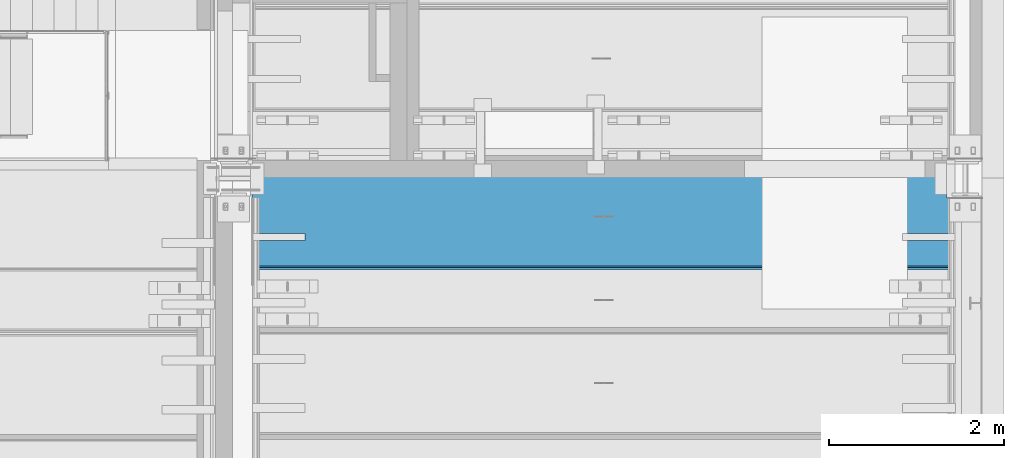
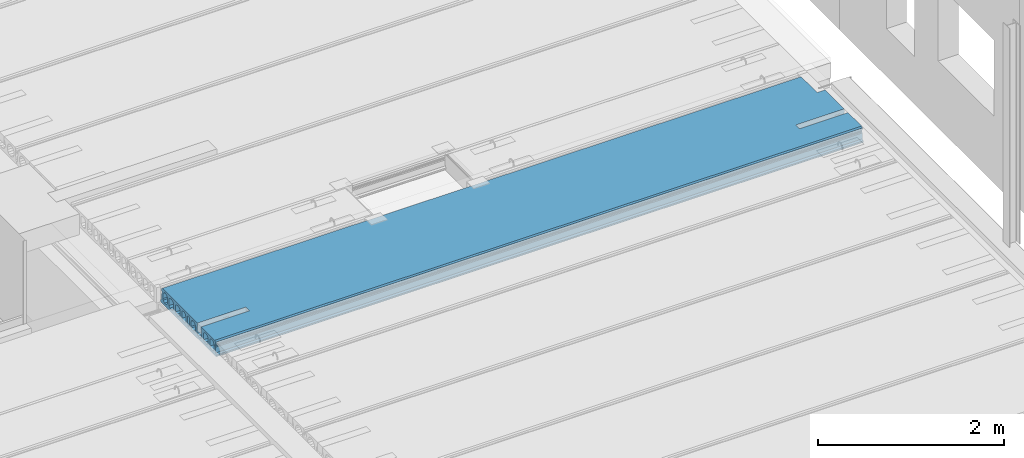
# One storey, part 97 of 230: 1 beam.
"""IFC4X3_ADD2 building model written with IfcOpenShell, lengths in millimetres."""

from ifc_helpers import new_model, si_unit, direction, origin_with_axes, place, context, subcontext, project, spatial, polygons, element, save


model = new_model("IFC4X3_ADD2")

# Units and contexts
model_context = context("Model", 3, precision=1e-05, world=origin_with_axes(), true_north=direction((0.0, 1.0)))
body_context = subcontext(model_context, "Body", "Model", "MODEL_VIEW")
ifc_project = project(units=[si_unit("LENGTHUNIT", "METRE", prefix="MILLI"), si_unit("AREAUNIT", "SQUARE_METRE"), si_unit("VOLUMEUNIT", "CUBIC_METRE"), si_unit("PLANEANGLEUNIT", "RADIAN"), si_unit("TIMEUNIT", "SECOND"), si_unit("MASSUNIT", "GRAM")], contexts=[model_context])

# Site, building, storey
site_placement = place(None, origin_with_axes())
site = spatial("IfcSite", under=ifc_project, at=site_placement, Name="Site", CompositionType="ELEMENT")
building_placement = place(site_placement, origin_with_axes())
building = spatial("IfcBuilding", under=site, at=building_placement, Name="IFC Building Story")
storey_placement = place(building_placement, origin_with_axes())
storey = spatial("IfcBuildingStorey", under=building, at=storey_placement, Name="ETAGE 00 (0)", Elevation=0.0)

# Beam
beam_placement = place(storey_placement, origin_with_axes())
element("IfcBeam", 1, at=beam_placement, inside=storey, Name="HOLLOWCORE SLAB", ObjectType="EB_SPN200", context=body_context, shape_type="Tessellation", body=[
    polygons([(40181.189, 349.0, 3999.9999909), (40181.189, -829.0, 3999.9999909), (40181.189, -840.0, 4012.9999909), (40181.189, -840.0, 4029.9999909), (40181.189, -820.0, 4044.9999909), (40181.189, -818.5499877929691, 4119.9999909), (40181.189, -811.0173785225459, 4128.676139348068), (40181.189, -808.160069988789, 4139.805000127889), (40181.189, -810.581363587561, 4151.036789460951), (40181.189, -817.7700195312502, 4159.9999909), (40181.189, -817.2887038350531, 4185.002769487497), (40181.189, -802.0, 4199.9999909), (40181.189, -510.0, 4199.9999909), (40181.189, -510.0, 4159.431439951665), (40181.189, -523.0, 4148.669989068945), (40181.189, -523.0, 4059.329992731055), (40181.189, -500.471955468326, 4040.681189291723), (40181.189, -471.999999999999, 4033.999990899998), (40181.189, -443.528044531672, 4040.681189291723), (40181.189, -421.0, 4059.329992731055), (40181.189, -421.0, 4148.669989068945), (40181.189, -430.0, 4156.120224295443), (40181.189, -430.0, 4199.9999909), (40181.189, 322.0, 4199.9999909), (40181.189, 337.28870383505, 4185.002769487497), (40181.189, 337.7700195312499, 4159.9999909), (40181.189, 330.58136358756, 4151.036789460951), (40181.189, 328.16006998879, 4139.805000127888), (40181.189, 331.01737852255, 4128.676139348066), (40181.189, 338.5499877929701, 4119.9999909), (40181.189, 340.0, 4044.9999909), (40181.189, 360.0, 4029.9999909), (40181.189, 360.0, 4012.9999909), (40181.189, 305.77841495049, 4132.648626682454), (40181.189, 305.26233230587, 4134.906764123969), (40181.189, 304.48861684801, 4137.090085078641), (40181.189, 303.4676470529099, 4139.169302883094), (40181.189, 290.0, 4162.9999909), (40181.189, 275.9999999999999, 4172.9999909), (40181.189, 258.96883007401, 4173.755090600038), (40181.189, 242.41792616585, 4169.66871024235), (40181.189, 227.69528512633, 4161.073667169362), (40181.189, 215.9999999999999, 4148.669989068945), (40181.189, 215.9999999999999, 4059.329992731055), (40181.189, 227.69528512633, 4046.926314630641), (40181.189, 242.41792616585, 4038.331271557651), (40181.189, 258.96883007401, 4034.244891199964), (40181.189, 275.9999999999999, 4034.9999909), (40181.189, 287.0, 4040.9999909), (40181.189, 303.0, 4056.9999909), (40181.189, 309.0, 4071.9999909), (40181.189, 306.0299421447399, 4130.345962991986), (40181.189, 130.0, 4173.999990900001), (40181.189, 101.5280445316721, 4167.318792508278), (40181.189, 79.0, 4148.669989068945), (40181.189, 79.0, 4059.329992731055), (40181.189, 101.5280445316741, 4040.681189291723), (40181.189, 130.0, 4033.999990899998), (40181.189, 158.4719554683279, 4040.681189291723), (40181.189, 180.9999999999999, 4059.329992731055), (40181.189, 180.9999999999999, 4148.669989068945), (40181.189, 158.4719554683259, 4167.318792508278), (40181.189, -8.0, 4173.999990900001), (40181.189, -36.47195546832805, 4167.318792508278), (40181.189, -59.0, 4148.669989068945), (40181.189, -59.0, 4059.329992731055), (40181.189, -36.47195546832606, 4040.681189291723), (40181.189, -7.999999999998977, 4033.999990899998), (40181.189, 20.47195546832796, 4040.681189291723), (40181.189, 42.99999999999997, 4059.329992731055), (40181.189, 42.99999999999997, 4148.669989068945), (40181.189, 20.47195546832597, 4167.318792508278), (40181.189, -121.4179261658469, 4169.66871024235), (40181.189, -137.9688300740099, 4173.755090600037), (40181.189, -155.0, 4172.9999909), (40181.189, -169.0, 4162.9999909), (40181.189, -182.467662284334, 4139.169310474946), (40181.189, -183.4886352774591, 4137.090088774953), (40181.189, -184.262352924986, 4134.906763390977), (40181.189, -184.7784366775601, 4132.648621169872), (40181.189, -185.029963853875, 4130.345952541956), (40181.189, -188.0, 4071.9999909), (40181.189, -182.0, 4056.9999909), (40181.189, -165.9999999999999, 4040.9999909), (40181.189, -155.0, 4034.9999909), (40181.189, -137.9688300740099, 4034.244891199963), (40181.189, -121.4179261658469, 4038.33127155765), (40181.189, -106.6952851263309, 4046.926314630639), (40181.189, -95.0, 4059.329992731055), (40181.189, -95.0, 4148.669989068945), (40181.189, -106.6952851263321, 4161.073667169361), (40181.189, -223.524554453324, 4166.831645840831), (40181.189, -231.00042354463, 4172.130025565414), (40181.189, -240.029365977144, 4173.9999909), (40181.189, -248.99957645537, 4172.130025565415), (40181.189, -256.475445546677, 4166.831645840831), (40181.189, -261.211573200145, 4158.987505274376), (40181.189, -262.418971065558, 4149.904354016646), (40181.189, -254.918278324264, 4047.854121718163), (40181.189, -253.484939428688, 4042.477896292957), (40181.189, -250.184922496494, 4037.998147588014), (40181.189, -245.475326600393, 4035.035384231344), (40181.189, -239.99150254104, 4033.9999909), (40181.189, -234.524673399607, 4035.035384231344), (40181.189, -229.815077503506, 4037.998147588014), (40181.189, -226.515060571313, 4042.477896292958), (40181.189, -225.081721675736, 4047.854121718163), (40181.189, -217.581028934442, 4149.904354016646), (40181.189, -218.788426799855, 4158.987505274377), (40181.189, -295.22156332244, 4132.648621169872), (40181.189, -295.737647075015, 4134.906763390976), (40181.189, -296.511364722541, 4137.090088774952), (40181.189, -297.532337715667, 4139.169310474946), (40181.189, -311.0, 4162.9999909), (40181.189, -325.0, 4172.9999909), (40181.189, -342.03116992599, 4173.755090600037), (40181.189, -358.582073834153, 4169.66871024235), (40181.189, -373.304714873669, 4161.073667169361), (40181.189, -385.0, 4148.669989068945), (40181.189, -385.0, 4059.329992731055), (40181.189, -373.304714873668, 4046.926314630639), (40181.189, -358.582073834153, 4038.331271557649), (40181.189, -342.03116992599, 4034.244891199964), (40181.189, -325.0, 4034.9999909), (40181.189, -314.0, 4040.9999909), (40181.189, -298.0, 4056.9999909), (40181.189, -292.0, 4071.999990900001), (40181.189, -294.970036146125, 4130.345952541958), (40181.189, -610.0, 4173.999990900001), (40181.189, -638.471955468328, 4167.318792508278), (40181.189, -661.0, 4148.669989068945), (40181.189, -661.0, 4059.329992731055), (40181.189, -638.471955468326, 4040.681189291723), (40181.189, -610.0, 4033.999990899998), (40181.189, -581.528044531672, 4040.681189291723), (40181.189, -559.0, 4059.329992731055), (40181.189, -559.0, 4148.669989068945), (40181.189, -581.528044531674, 4167.318792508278), (40181.189, -722.417926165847, 4169.668710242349), (40181.189, -738.96883007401, 4173.755090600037), (40181.189, -756.0, 4172.9999909), (40181.189, -770.0, 4162.9999909), (40181.189, -783.4676470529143, 4139.169302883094), (40181.189, -784.4886168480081, 4137.090085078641), (40181.189, -785.262332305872, 4134.906764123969), (40181.189, -785.7784149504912, 4132.648626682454), (40181.189, -786.029942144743, 4130.345962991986), (40181.189, -789.0, 4071.9999909), (40181.189, -783.0, 4056.9999909), (40181.189, -767.0, 4040.9999909), (40181.189, -756.0, 4034.9999909), (40181.189, -738.96883007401, 4034.244891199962), (40181.189, -722.417926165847, 4038.331271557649), (40181.189, -707.695285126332, 4046.926314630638), (40181.189, -696.0, 4059.329992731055), (40181.189, -696.0, 4148.669989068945), (40181.189, -707.695285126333, 4161.073667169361), (48195.68900000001, -430.0, 4199.9999909), (48195.68900000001, -430.0, 4156.120224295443), (48195.68900000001, -421.0, 4148.669989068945), (48195.68900000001, -421.0, 4059.329992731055), (48195.68900000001, -443.528044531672, 4040.681189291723), (48195.68900000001, -471.999999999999, 4033.999990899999), (48195.68900000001, -500.471955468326, 4040.681189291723), (48195.68900000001, -523.0, 4059.329992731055), (48195.68900000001, -523.0, 4148.669989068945), (48195.68900000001, -510.0, 4159.431439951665), (48195.68900000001, -510.0, 4199.9999909), (48195.68900000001, -802.0, 4199.9999909), (48195.68900000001, -817.2887038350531, 4185.002769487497), (48195.68900000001, -817.7700195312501, 4159.9999909), (48195.68900000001, -810.581363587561, 4151.036789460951), (48195.68900000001, -808.160069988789, 4139.805000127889), (48195.68900000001, -811.0173785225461, 4128.676139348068), (48195.68900000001, -818.5499877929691, 4119.9999909), (48195.68900000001, -820.0, 4044.9999909), (48195.68900000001, -840.0, 4029.9999909), (48195.68900000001, -840.0, 4012.9999909), (48195.68900000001, -829.0, 3999.9999909), (48195.68900000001, -20.0, 3999.9999909), (48195.68900000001, -20.0, 4036.815897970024), (48195.68900000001, -36.47195546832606, 4040.681189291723), (48195.68900000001, -59.0, 4059.329992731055), (48195.68900000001, -59.0, 4148.669989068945), (48195.68900000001, -36.47195546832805, 4167.318792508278), (48195.68900000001, -20.0, 4171.184083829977), (48195.68900000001, -20.0, 4199.9999909), (48195.68900000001, -121.4179261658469, 4169.66871024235), (48195.68900000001, -106.6952851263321, 4161.073667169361), (48195.68900000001, -95.0, 4148.669989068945), (48195.68900000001, -95.0, 4059.329992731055), (48195.68900000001, -106.6952851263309, 4046.926314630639), (48195.68900000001, -121.4179261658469, 4038.33127155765), (48195.68900000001, -137.9688300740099, 4034.244891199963), (48195.68900000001, -155.0, 4034.9999909), (48195.68900000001, -165.9999999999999, 4040.9999909), (48195.68900000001, -182.0, 4056.9999909), (48195.68900000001, -188.0, 4071.9999909), (48195.68900000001, -185.029963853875, 4130.345952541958), (48195.68900000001, -184.7784366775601, 4132.648621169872), (48195.68900000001, -184.262352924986, 4134.906763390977), (48195.68900000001, -183.4886352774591, 4137.090088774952), (48195.68900000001, -182.467662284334, 4139.169310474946), (48195.68900000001, -169.0, 4162.9999909), (48195.68900000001, -155.0, 4172.9999909), (48195.68900000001, -137.9688300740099, 4173.755090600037), (48195.68900000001, -223.524554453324, 4166.831645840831), (48195.68900000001, -218.788426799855, 4158.987505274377), (48195.68900000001, -217.581028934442, 4149.904354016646), (48195.68900000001, -225.081721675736, 4047.854121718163), (48195.68900000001, -226.515060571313, 4042.477896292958), (48195.68900000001, -229.815077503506, 4037.998147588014), (48195.68900000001, -234.524673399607, 4035.035384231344), (48195.68900000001, -239.99150254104, 4033.9999909), (48195.68900000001, -245.475326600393, 4035.035384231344), (48195.68900000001, -250.184922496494, 4037.998147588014), (48195.68900000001, -253.484939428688, 4042.477896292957), (48195.68900000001, -254.918278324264, 4047.854121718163), (48195.68900000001, -262.418971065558, 4149.904354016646), (48195.68900000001, -261.211573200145, 4158.987505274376), (48195.68900000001, -256.475445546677, 4166.831645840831), (48195.68900000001, -248.99957645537, 4172.130025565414), (48195.68900000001, -240.029365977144, 4173.9999909), (48195.68900000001, -231.00042354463, 4172.130025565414), (48195.68900000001, -295.22156332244, 4132.648621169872), (48195.68900000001, -294.970036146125, 4130.345952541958), (48195.68900000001, -292.0, 4071.9999909), (48195.68900000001, -298.0, 4056.9999909), (48195.68900000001, -314.0, 4040.9999909), (48195.68900000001, -325.0, 4034.9999909), (48195.68900000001, -342.03116992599, 4034.244891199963), (48195.68900000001, -358.582073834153, 4038.33127155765), (48195.68900000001, -373.304714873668, 4046.926314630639), (48195.68900000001, -385.0, 4059.329992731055), (48195.68900000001, -385.0, 4148.669989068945), (48195.68900000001, -373.304714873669, 4161.073667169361), (48195.68900000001, -358.582073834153, 4169.66871024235), (48195.68900000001, -342.03116992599, 4173.755090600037), (48195.68900000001, -325.0, 4172.9999909), (48195.68900000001, -311.0, 4162.9999909), (48195.68900000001, -297.532337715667, 4139.169310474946), (48195.68900000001, -296.511364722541, 4137.090088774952), (48195.68900000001, -295.737647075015, 4134.906763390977), (48195.68900000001, -610.0, 4173.999990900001), (48195.68900000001, -581.528044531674, 4167.318792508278), (48195.68900000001, -559.0, 4148.669989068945), (48195.68900000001, -559.0, 4059.329992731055), (48195.68900000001, -581.528044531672, 4040.681189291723), (48195.68900000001, -610.0, 4033.999990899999), (48195.68900000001, -638.471955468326, 4040.681189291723), (48195.68900000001, -661.0, 4059.329992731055), (48195.68900000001, -661.0, 4148.669989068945), (48195.68900000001, -638.471955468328, 4167.318792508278), (48195.68900000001, -722.417926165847, 4169.668710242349), (48195.68900000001, -707.695285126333, 4161.073667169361), (48195.68900000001, -696.0, 4148.669989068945), (48195.68900000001, -696.0, 4059.329992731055), (48195.68900000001, -707.695285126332, 4046.926314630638), (48195.68900000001, -722.417926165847, 4038.331271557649), (48195.68900000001, -738.96883007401, 4034.244891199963), (48195.68900000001, -756.0, 4034.9999909), (48195.68900000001, -767.0, 4040.9999909), (48195.68900000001, -783.0, 4056.9999909), (48195.68900000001, -789.0, 4071.9999909), (48195.68900000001, -786.029942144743, 4130.345962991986), (48195.68900000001, -785.7784149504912, 4132.648626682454), (48195.68900000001, -785.262332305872, 4134.906764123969), (48195.68900000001, -784.4886168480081, 4137.090085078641), (48195.68900000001, -783.4676470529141, 4139.169302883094), (48195.68900000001, -770.0, 4162.9999909), (48195.68900000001, -756.0, 4172.9999909), (48195.68900000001, -738.96883007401, 4173.755090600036), (48095.68900000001, 349.0, 3999.9999909), (48095.68900000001, -20.0, 3999.9999909), (47595.68900000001, -510.0, 4199.9999909), (47595.68900000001, -430.0, 4199.9999909), (48095.68900000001, -20.0, 4199.9999909), (48095.68900000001, 322.0, 4199.9999909), (40781.189, -430.0, 4199.9999909), (40781.189, -510.0, 4199.9999909), (48095.68900000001, 337.28870383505, 4185.002769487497), (48095.68900000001, 337.7700195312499, 4159.9999909), (48095.68900000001, 330.58136358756, 4151.036789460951), (48095.68900000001, 328.16006998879, 4139.805000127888), (48095.68900000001, 331.01737852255, 4128.676139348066), (48095.68900000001, 338.5499877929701, 4119.9999909), (48095.68900000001, 340.0, 4044.9999909), (48095.68900000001, 360.0, 4029.9999909), (48095.68900000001, 360.0, 4012.9999909), (48095.68900000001, 305.77841495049, 4132.648626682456), (48095.68900000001, 305.26233230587, 4134.906764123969), (48095.68900000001, 304.48861684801, 4137.090085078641), (48095.68900000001, 303.4676470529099, 4139.169302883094), (48095.68900000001, 290.0, 4162.9999909), (48095.68900000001, 275.9999999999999, 4172.9999909), (48095.68900000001, 258.96883007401, 4173.755090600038), (48095.68900000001, 242.41792616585, 4169.66871024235), (48095.68900000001, 227.69528512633, 4161.073667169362), (48095.68900000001, 215.9999999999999, 4148.669989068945), (48095.68900000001, 215.9999999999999, 4059.329992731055), (48095.68900000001, 227.69528512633, 4046.926314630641), (48095.68900000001, 242.41792616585, 4038.331271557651), (48095.68900000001, 258.96883007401, 4034.244891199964), (48095.68900000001, 275.9999999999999, 4034.9999909), (48095.68900000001, 287.0, 4040.9999909), (48095.68900000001, 303.0, 4056.9999909), (48095.68900000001, 309.0, 4071.9999909), (48095.68900000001, 306.0299421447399, 4130.345962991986), (48095.68900000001, 130.0, 4173.999990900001), (48095.68900000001, 101.5280445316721, 4167.318792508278), (48095.68900000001, 79.0, 4148.669989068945), (48095.68900000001, 79.0, 4059.329992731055), (48095.68900000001, 101.5280445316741, 4040.681189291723), (48095.68900000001, 130.0, 4033.999990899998), (48095.68900000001, 158.4719554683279, 4040.681189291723), (48095.68900000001, 180.9999999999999, 4059.329992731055), (48095.68900000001, 180.9999999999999, 4148.669989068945), (48095.68900000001, 158.4719554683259, 4167.318792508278), (48095.68900000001, -8.0, 4173.999990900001), (48095.68900000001, -20.0, 4171.184083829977), (48095.68900000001, -20.0, 4036.815897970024), (48095.68900000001, -7.999999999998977, 4033.999990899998), (48095.68900000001, 20.47195546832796, 4040.681189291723), (48095.68900000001, 42.99999999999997, 4059.329992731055), (48095.68900000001, 42.99999999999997, 4148.669989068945), (48095.68900000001, 20.47195546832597, 4167.318792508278), (47595.68900000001, -472.000000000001, 4173.999990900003), (47595.68900000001, -500.471955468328, 4167.318792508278), (40781.189, -500.471955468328, 4167.318792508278), (40781.189, -472.000000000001, 4173.999990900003), (40781.189, -510.0, 4159.431439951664), (47595.68900000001, -510.0, 4159.431439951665), (47595.68900000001, -430.0, 4156.120224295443), (47595.68900000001, -443.528044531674, 4167.318792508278), (40781.189, -443.528044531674, 4167.318792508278), (40781.189, -430.0, 4156.120224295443), (47595.68900000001, -430.0, 4199.999996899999), (47595.68900000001, -510.0, 4199.999996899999), (40781.189, -510.0, 4199.999996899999), (40781.189, -430.0, 4199.999996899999), (48095.68900000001, -20.0, 3999.9999969), (48095.68900000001, -20.0, 4199.999996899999)], [[[138, 129, 13]], [[13, 137, 138]], [[16, 17, 136]], [[136, 137, 15]], [[136, 15, 16]], [[137, 13, 14]], [[137, 14, 15]], [[17, 135, 136]], [[21, 22, 23]], [[113, 114, 97]], [[113, 97, 98]], [[98, 112, 113]], [[98, 111, 112]], [[98, 110, 111]], [[114, 96, 97]], [[114, 95, 96]], [[114, 94, 95]], [[121, 122, 20]], [[20, 120, 121]], [[21, 23, 119]], [[119, 120, 20]], [[119, 20, 21]], [[23, 118, 119]], [[23, 117, 118]], [[23, 116, 117]], [[23, 115, 116]], [[115, 23, 94]], [[94, 114, 115]], [[23, 75, 94]], [[75, 93, 94]], [[75, 76, 92]], [[75, 92, 93]], [[23, 74, 75]], [[74, 23, 24]], [[24, 73, 74]], [[122, 19, 20]], [[128, 110, 98]], [[98, 99, 127]], [[98, 127, 128]], [[99, 126, 127]], [[100, 101, 125]], [[125, 126, 99]], [[125, 99, 100]], [[109, 92, 76]], [[76, 108, 109]], [[83, 84, 107]], [[107, 82, 83]], [[107, 108, 81]], [[107, 81, 82]], [[108, 80, 81]], [[108, 79, 80]], [[108, 78, 79]], [[108, 77, 78]], [[108, 76, 77]], [[84, 106, 107]], [[66, 67, 89]], [[91, 73, 65]], [[65, 90, 91]], [[65, 66, 89]], [[65, 89, 90]], [[73, 64, 65]], [[73, 63, 64]], [[73, 24, 63]], [[67, 88, 89]], [[72, 63, 24]], [[71, 72, 55]], [[55, 56, 70]], [[55, 70, 71]], [[72, 54, 55]], [[72, 53, 54]], [[72, 24, 53]], [[62, 53, 24]], [[24, 61, 62]], [[52, 34, 28]], [[29, 30, 31]], [[29, 31, 51]], [[29, 51, 52]], [[52, 28, 29]], [[31, 50, 51]], [[31, 32, 33]], [[31, 33, 1]], [[31, 1, 49]], [[31, 49, 50]], [[1, 48, 49]], [[1, 47, 48]], [[1, 46, 47]], [[1, 60, 46]], [[60, 45, 46]], [[60, 44, 45]], [[60, 61, 43]], [[60, 43, 44]], [[61, 42, 43]], [[61, 41, 42]], [[41, 61, 24]], [[24, 40, 41]], [[24, 39, 40]], [[24, 38, 39]], [[24, 27, 37]], [[24, 37, 38]], [[27, 28, 36]], [[27, 36, 37]], [[28, 35, 36]], [[28, 34, 35]], [[24, 25, 26]], [[24, 26, 27]], [[1, 59, 60]], [[1, 58, 59]], [[1, 69, 58]], [[69, 57, 58]], [[69, 70, 56]], [[69, 56, 57]], [[1, 68, 69]], [[1, 87, 68]], [[87, 88, 67]], [[87, 67, 68]], [[1, 86, 87]], [[1, 85, 86]], [[1, 105, 85]], [[105, 106, 84]], [[105, 84, 85]], [[1, 104, 105]], [[1, 103, 104]], [[1, 124, 103]], [[124, 102, 103]], [[124, 125, 101]], [[124, 101, 102]], [[1, 123, 124]], [[1, 18, 123]], [[18, 19, 122]], [[18, 122, 123]], [[1, 134, 18]], [[134, 135, 17]], [[134, 17, 18]], [[1, 2, 134]], [[2, 133, 134]], [[2, 132, 133]], [[9, 10, 11]], [[9, 11, 12]], [[142, 143, 8]], [[142, 8, 9]], [[142, 9, 12]], [[12, 141, 142]], [[12, 140, 141]], [[12, 139, 140]], [[146, 147, 7]], [[146, 7, 8]], [[8, 145, 146]], [[8, 144, 145]], [[8, 143, 144]], [[148, 149, 5]], [[5, 6, 7]], [[5, 7, 147]], [[5, 147, 148]], [[139, 12, 131]], [[131, 157, 139]], [[131, 156, 157]], [[131, 132, 155]], [[131, 155, 156]], [[132, 154, 155]], [[132, 153, 154]], [[153, 132, 2]], [[2, 152, 153]], [[2, 151, 152]], [[2, 150, 151]], [[2, 5, 149]], [[2, 149, 150]], [[2, 3, 4]], [[2, 4, 5]], [[12, 130, 131]], [[12, 129, 130]], [[12, 13, 129]], [[176, 177, 178]], [[176, 178, 179]], [[185, 186, 187]], [[187, 184, 185]], [[184, 187, 190]], [[190, 191, 183]], [[190, 183, 184]], [[187, 189, 190]], [[187, 188, 189]], [[206, 188, 187]], [[187, 205, 206]], [[187, 207, 205]], [[207, 204, 205]], [[208, 209, 203]], [[208, 203, 204]], [[204, 207, 208]], [[209, 202, 203]], [[209, 201, 202]], [[209, 200, 201]], [[209, 199, 200]], [[209, 210, 198]], [[209, 198, 199]], [[210, 197, 198]], [[210, 196, 197]], [[210, 195, 196]], [[228, 229, 218]], [[218, 227, 228]], [[218, 219, 226]], [[218, 226, 227]], [[219, 225, 226]], [[229, 217, 218]], [[243, 225, 219]], [[219, 242, 243]], [[219, 220, 241]], [[219, 241, 242]], [[220, 240, 241]], [[220, 239, 240]], [[224, 207, 187]], [[187, 223, 224]], [[187, 158, 223]], [[158, 222, 223]], [[158, 221, 222]], [[239, 220, 221]], [[221, 158, 239]], [[158, 238, 239]], [[158, 237, 238]], [[158, 236, 237]], [[158, 235, 236]], [[161, 162, 234]], [[234, 235, 160]], [[234, 160, 161]], [[235, 158, 159]], [[235, 159, 160]], [[162, 233, 234]], [[166, 167, 168]], [[166, 168, 246]], [[246, 247, 165]], [[246, 165, 166]], [[168, 245, 246]], [[168, 244, 245]], [[253, 244, 168]], [[253, 168, 169]], [[169, 252, 253]], [[264, 265, 174]], [[264, 174, 175]], [[264, 175, 176]], [[176, 263, 264]], [[176, 179, 262]], [[176, 262, 263]], [[179, 261, 262]], [[179, 260, 261]], [[179, 259, 260]], [[179, 251, 259]], [[251, 258, 259]], [[251, 257, 258]], [[251, 252, 256]], [[251, 256, 257]], [[252, 255, 256]], [[252, 254, 255]], [[252, 169, 254]], [[179, 250, 251]], [[179, 249, 250]], [[179, 164, 249]], [[164, 248, 249]], [[164, 165, 247]], [[164, 247, 248]], [[179, 163, 164]], [[179, 232, 163]], [[232, 233, 162]], [[232, 162, 163]], [[179, 231, 232]], [[179, 230, 231]], [[179, 216, 230]], [[216, 217, 229]], [[216, 229, 230]], [[179, 215, 216]], [[179, 214, 215]], [[179, 180, 214]], [[180, 213, 214]], [[180, 212, 213]], [[180, 211, 212]], [[195, 210, 211]], [[211, 180, 195]], [[180, 194, 195]], [[180, 193, 194]], [[180, 192, 193]], [[180, 183, 191]], [[180, 191, 192]], [[180, 182, 183]], [[180, 181, 182]], [[268, 269, 173]], [[173, 267, 268]], [[173, 266, 267]], [[173, 174, 265]], [[173, 265, 266]], [[272, 254, 169]], [[169, 271, 272]], [[169, 270, 271]], [[169, 172, 173]], [[169, 173, 269]], [[169, 269, 270]], [[169, 170, 171]], [[169, 171, 172]], [[274, 180, 179]], [[274, 179, 2]], [[274, 2, 1]], [[1, 273, 274]], [[3, 2, 179, 178]], [[4, 3, 178, 177]], [[5, 4, 177, 176]], [[6, 5, 176, 175]], [[7, 6, 175, 174]], [[8, 7, 174, 173]], [[9, 8, 173, 172]], [[10, 9, 172, 171]], [[11, 10, 171, 170]], [[12, 11, 170, 169]], [[277, 278, 276]], [[276, 158, 277]], [[158, 187, 277]], [[276, 278, 24]], [[24, 275, 276]], [[280, 13, 12]], [[280, 12, 169]], [[169, 279, 280]], [[169, 275, 24]], [[169, 24, 279]], [[24, 23, 279]], [[169, 168, 275]], [[25, 24, 278, 281]], [[26, 25, 281, 282]], [[27, 26, 282, 283]], [[28, 27, 283, 284]], [[29, 28, 284, 285]], [[30, 29, 285, 286]], [[31, 30, 286, 287]], [[32, 31, 287, 288]], [[33, 32, 288, 289]], [[1, 33, 289, 273]], [[35, 34, 290, 291]], [[36, 35, 291, 292]], [[37, 36, 292, 293]], [[38, 37, 293, 294]], [[39, 38, 294, 295]], [[40, 39, 295, 296]], [[41, 40, 296, 297]], [[42, 41, 297, 298]], [[43, 42, 298, 299]], [[44, 43, 299, 300]], [[45, 44, 300, 301]], [[46, 45, 301, 302]], [[47, 46, 302, 303]], [[48, 47, 303, 304]], [[49, 48, 304, 305]], [[50, 49, 305, 306]], [[51, 50, 306, 307]], [[52, 51, 307, 308]], [[34, 52, 308, 290]], [[54, 53, 309, 310]], [[55, 54, 310, 311]], [[56, 55, 311, 312]], [[57, 56, 312, 313]], [[58, 57, 313, 314]], [[59, 58, 314, 315]], [[60, 59, 315, 316]], [[61, 60, 316, 317]], [[62, 61, 317, 318]], [[53, 62, 318, 309]], [[320, 186, 185]], [[320, 185, 64]], [[320, 64, 63]], [[63, 319, 320]], [[65, 64, 185, 184]], [[66, 65, 184, 183]], [[67, 66, 183, 182]], [[321, 322, 68]], [[68, 67, 182]], [[68, 182, 321]], [[182, 181, 321]], [[69, 68, 322, 323]], [[70, 69, 323, 324]], [[71, 70, 324, 325]], [[72, 71, 325, 326]], [[63, 72, 326, 319]], [[74, 73, 188, 206]], [[75, 74, 206, 205]], [[76, 75, 205, 204]], [[77, 76, 204, 203]], [[78, 77, 203, 202]], [[79, 78, 202, 201]], [[80, 79, 201, 200]], [[81, 80, 200, 199]], [[82, 81, 199, 198]], [[83, 82, 198, 197]], [[84, 83, 197, 196]], [[85, 84, 196, 195]], [[86, 85, 195, 194]], [[87, 86, 194, 193]], [[88, 87, 193, 192]], [[89, 88, 192, 191]], [[90, 89, 191, 190]], [[91, 90, 190, 189]], [[73, 91, 189, 188]], [[93, 92, 207, 224]], [[94, 93, 224, 223]], [[95, 94, 223, 222]], [[96, 95, 222, 221]], [[97, 96, 221, 220]], [[98, 97, 220, 219]], [[99, 98, 219, 218]], [[100, 99, 218, 217]], [[101, 100, 217, 216]], [[102, 101, 216, 215]], [[103, 102, 215, 214]], [[104, 103, 214, 213]], [[105, 104, 213, 212]], [[106, 105, 212, 211]], [[107, 106, 211, 210]], [[108, 107, 210, 209]], [[109, 108, 209, 208]], [[92, 109, 208, 207]], [[111, 110, 225, 243]], [[112, 111, 243, 242]], [[113, 112, 242, 241]], [[114, 113, 241, 240]], [[115, 114, 240, 239]], [[116, 115, 239, 238]], [[117, 116, 238, 237]], [[118, 117, 237, 236]], [[119, 118, 236, 235]], [[120, 119, 235, 234]], [[121, 120, 234, 233]], [[122, 121, 233, 232]], [[123, 122, 232, 231]], [[124, 123, 231, 230]], [[125, 124, 230, 229]], [[126, 125, 229, 228]], [[127, 126, 228, 227]], [[128, 127, 227, 226]], [[110, 128, 226, 225]], [[327, 328, 329, 330]], [[331, 329, 328]], [[332, 167, 166]], [[332, 166, 331]], [[331, 328, 332]], [[166, 15, 331]], [[15, 14, 331]], [[16, 15, 166, 165]], [[17, 16, 165, 164]], [[18, 17, 164, 163]], [[19, 18, 163, 162]], [[20, 19, 162, 161]], [[21, 20, 161, 160]], [[336, 22, 21]], [[336, 21, 333]], [[333, 334, 335]], [[333, 335, 336]], [[21, 160, 333]], [[160, 159, 333]], [[327, 330, 335, 334]], [[130, 129, 244, 253]], [[131, 130, 253, 252]], [[132, 131, 252, 251]], [[133, 132, 251, 250]], [[134, 133, 250, 249]], [[135, 134, 249, 248]], [[136, 135, 248, 247]], [[137, 136, 247, 246]], [[138, 137, 246, 245]], [[129, 138, 245, 244]], [[140, 139, 254, 272]], [[141, 140, 272, 271]], [[142, 141, 271, 270]], [[143, 142, 270, 269]], [[144, 143, 269, 268]], [[145, 144, 268, 267]], [[146, 145, 267, 266]], [[147, 146, 266, 265]], [[148, 147, 265, 264]], [[149, 148, 264, 263]], [[150, 149, 263, 262]], [[151, 150, 262, 261]], [[152, 151, 261, 260]], [[153, 152, 260, 259]], [[154, 153, 259, 258]], [[155, 154, 258, 257]], [[156, 155, 257, 256]], [[157, 156, 256, 255]], [[139, 157, 255, 254]], [[168, 167, 332, 275]], [[159, 158, 337, 333]], [[334, 333, 276]], [[276, 338, 327]], [[276, 327, 334]], [[338, 328, 327]], [[338, 332, 328]], [[23, 22, 336, 279]], [[14, 13, 339, 331]], [[329, 331, 280]], [[280, 330, 329]], [[280, 340, 335]], [[280, 335, 330]], [[340, 336, 335]], [[341, 321, 181, 180]], [[308, 307, 306]], [[308, 306, 305]], [[308, 305, 304]], [[308, 304, 303]], [[308, 303, 302]], [[308, 302, 301]], [[308, 301, 300]], [[308, 300, 299]], [[293, 292, 291]], [[293, 291, 290]], [[293, 290, 308]], [[308, 299, 298]], [[308, 298, 297]], [[308, 297, 296]], [[308, 296, 295]], [[308, 295, 294]], [[308, 294, 293]], [[320, 277, 187, 186]]]),
])

save(model, "model.ifc")
